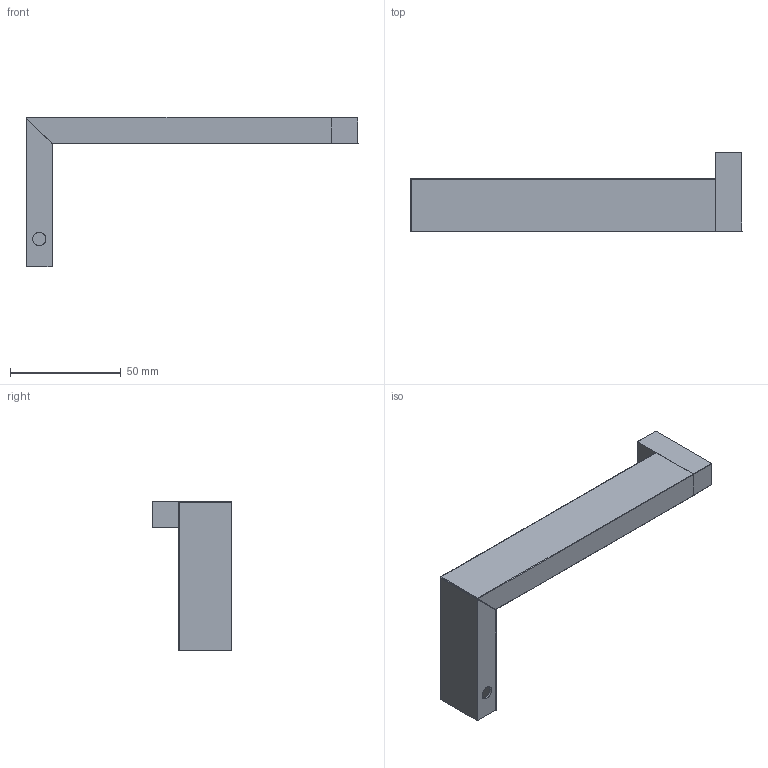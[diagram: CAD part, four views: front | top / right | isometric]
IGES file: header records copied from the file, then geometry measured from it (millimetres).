
Start section: SolidWorks IGES file using analytic representation for surfaces
Global section: file name: G:\Projects\New project\For Marketing\IGS\IGS\2015-12-11\494001002VW.IGS; native system: SolidWorks 2010; preprocessor: SolidWorks 2010; author: linda; date: 151210.155607; units: millimetre
Bounding box: 150 x 36 x 67.5 mm (x, y, z)
Surface area: 19692.4 mm2 (no closed solid volume)
Topology: 0 solids, 0 shells, 44 faces, 418 edges, 415 vertices
Faces by surface type: revolution 24, bspline 20
